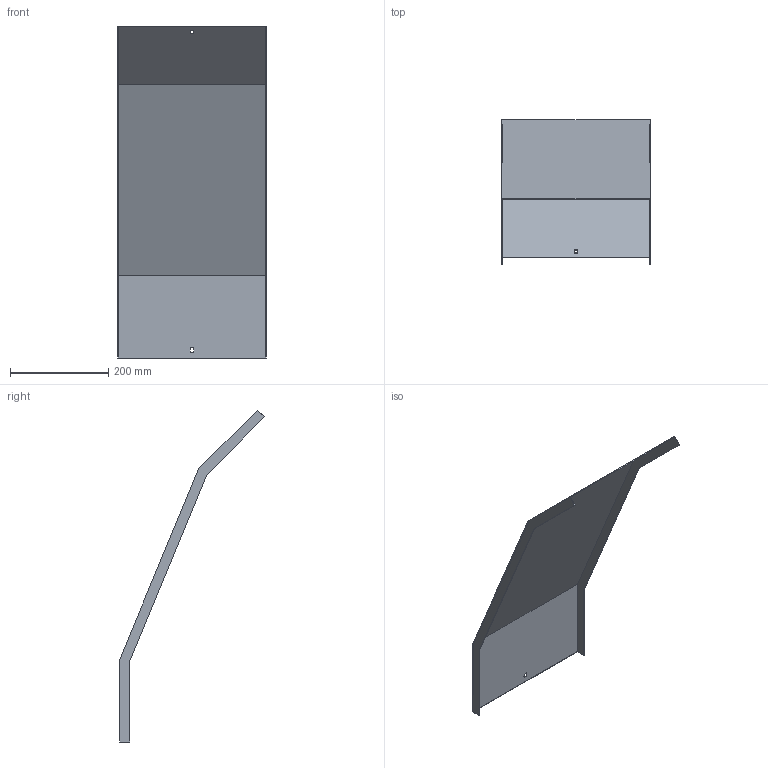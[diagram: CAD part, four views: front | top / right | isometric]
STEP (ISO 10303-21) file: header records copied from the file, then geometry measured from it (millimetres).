
FILE_DESCRIPTION (( 'STEP AP214' ), '1' );
FILE_NAME ('34N5C300.step', '2025-02-21T10:32:22', ( '' ), ( '' ), 'SwSTEP 2.0', 'SolidWorks 2023', '' );
FILE_SCHEMA (( 'AUTOMOTIVE_DESIGN' ));
Length unit declared in the file: millimetre
Products named in the file (1): 34N5C300
Bounding box: 303 x 294.72 x 677.38 mm (x, y, z)
Volume: 386124.2 mm3; surface area: 518176.1 mm2
Topology: 1 solids, 1 shells, 26 faces, 72 edges, 48 vertices
Faces by surface type: plane 26
Entity records: 847 total; most frequent: CARTESIAN_POINT 147, ORIENTED_EDGE 144, DIRECTION 126, EDGE_CURVE 72, VECTOR 72, LINE 72, VERTEX_POINT 48, EDGE_LOOP 30
